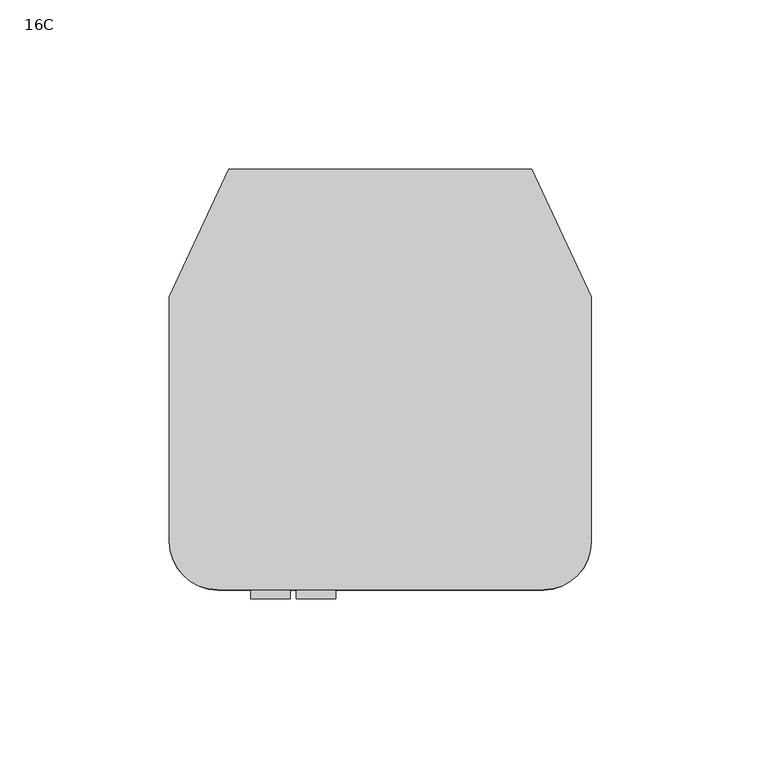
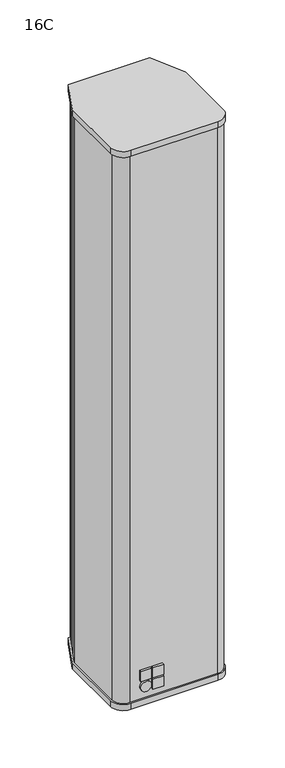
"""IFC4 building model written with IfcOpenShell, lengths in millimetres: proxy geometry, d&b xC-Series 16C Column : 16C."""

from ifc_helpers import new_model, si_unit, point, frame, frame_2d, origin, place, context, project, spatial, polyline, circle_curve, trimmed, segment, composite_curve, outline, extrude, source, transform, mapped, element, save
from ifc_brep_helpers import plane_surface, cylinder_surface, revolved_surface, advanced_brep


def proxy_16c_7316571e(model_context):
    return source(origin(), model_context, "Body", "SolidModel", [
        extrude(outline(polyline([(45.5615282, 50.1303765), (47.8272976, 51.1869221), (54.1607261, 37.604841), (51.8949566, 36.5482954), (45.5615282, 50.1303765)])), frame((0.0, 0.0, -318.0), z_axis=(0.0, 0.0, 1.0), x_axis=(1.0, 0.0, 0.0)), (0.0, 0.0, 1.0), 636.0),
        extrude(outline(polyline([(-45.5615282, 50.1303765), (-51.8949566, 36.5482954), (-54.1607261, 37.604841), (-47.8272976, 51.1869221), (-45.5615282, 50.1303765)])), frame((0.0, 0.0, -318.0), z_axis=(0.0, 0.0, 1.0), x_axis=(1.0, 0.0, 0.0)), (0.0, 0.0, 1.0), 636.0),
        advanced_brep(
        [(-32.05, 60.25, 318.0), (-43.601115, 60.25, 318.0), (-47.8272976, 51.1869221, 318.0), (-45.5615282, 50.1303765, 318.0), (-51.8949566, 36.5482954, 318.0), (-54.1607261, 37.604841, 318.0), (-60.5, 24.0102242, 318.0), (-60.5, -47.962132, 318.0), (-48.212132, -60.25, 318.0), (48.212132, -60.25, 318.0), (60.5, -47.962132, 318.0), (60.5, 24.0102242, 318.0), (54.1607261, 37.604841, 318.0), (51.8949566, 36.5482954, 318.0), (45.5615282, 50.1303765, 318.0), (47.8272976, 51.1869221, 318.0), (43.601115, 60.25, 318.0), (32.05, 60.25, 318.0), (32.05, 58.0499992, 318.0), (36.2500003, 58.0499992, 318.0), (36.2500003, 55.2955341, 318.0), (32.2044662, 51.25, 318.0), (23.7999989, 51.25, 318.0), (19.7499997, 55.2999992, 318.0), (19.7499997, 58.0499992, 318.0), (23.95, 58.0499992, 318.0), (23.95, 60.25, 318.0), (15.0, 60.25, 318.0), (15.0, 50.25, 318.0), (-15.0, 50.25, 318.0), (-15.0, 60.25, 318.0), (-23.95, 60.25, 318.0), (-23.95, 58.0499992, 318.0), (-19.7499997, 58.0499992, 318.0), (-19.7499997, 55.2999992, 318.0), (-23.7999989, 51.25, 318.0), (-32.2044662, 51.25, 318.0), (-36.2500003, 55.2955341, 318.0), (-36.2500003, 58.0499992, 318.0), (-32.05, 58.0499992, 318.0), (-32.05, 60.25, -318.0), (-32.05, 58.0499992, -318.0), (-36.2500003, 58.0499992, -318.0), (-36.2500003, 55.2955341, -318.0), (-32.2044662, 51.25, -318.0), (-23.7999989, 51.25, -318.0), (-19.7499997, 55.2999992, -318.0), (-19.7499997, 58.0499992, -318.0), (-23.95, 58.0499992, -318.0), (-23.95, 60.25, -318.0), (23.95, 60.25, -318.0), (23.95, 58.0499992, -318.0), (19.7499997, 58.0499992, -318.0), (19.7499997, 55.2999992, -318.0), (23.7999989, 51.25, -318.0), (32.2044662, 51.25, -318.0), (36.2500003, 55.2955341, -318.0), (36.2500003, 58.0499992, -318.0), (32.05, 58.0499992, -318.0), (32.05, 60.25, -318.0), (43.601115, 60.25, -318.0), (47.8272976, 51.1869221, -318.0), (45.5615282, 50.1303765, -318.0), (51.8949566, 36.5482954, -318.0), (54.1607261, 37.604841, -318.0), (60.5, 24.0102242, -318.0), (60.5, -47.962132, -318.0), (48.212132, -60.25, -318.0), (-48.212132, -60.25, -318.0), (-60.5, -47.962132, -318.0), (-60.5, 24.0102242, -318.0), (-54.1607261, 37.604841, -318.0), (-51.8949566, 36.5482954, -318.0), (-45.5615282, 50.1303765, -318.0), (-47.8272976, 51.1869221, -318.0), (-43.601115, 60.25, -318.0), (-15.0, 60.25, 286.5), (-12.5, 60.25, 284.0), (12.5, 60.25, 284.0), (15.0, 60.25, 286.5), (-3.375, 60.25, -88.5), (-3.375, 60.25, -190.0), (3.375, 60.25, -190.0), (3.375, 60.25, -88.5), (15.0, 50.25, 286.5), (12.5, 50.25, 284.0), (-12.5, 50.25, 284.0), (-15.0, 50.25, 286.5), (-3.375, 57.0, -190.0), (-3.375, 57.0, -88.5), (3.375, 57.0, -88.5), (3.375, 57.0, -190.0)],
        [
            (0, 1),
            (1, 2),
            (2, 3),
            (3, 4),
            (4, 5),
            (5, 6),
            (6, 7),
            (7, 8, circle_curve(frame((-48.212132, -47.962132, 318.0), z_axis=(0.0, 0.0, 1.0), x_axis=(-1.0, 0.0, 0.0)), 12.287868)),
            (8, 9),
            (9, 10, circle_curve(frame((48.212132, -47.962132, 318.0), z_axis=(0.0, 0.0, 1.0), x_axis=(-1.0, 0.0, 0.0)), 12.287868)),
            (10, 11),
            (11, 12),
            (12, 13),
            (13, 14),
            (14, 15),
            (15, 16),
            (16, 17),
            (17, 18),
            (18, 19),
            (19, 20),
            (20, 21),
            (21, 22),
            (22, 23),
            (23, 24),
            (24, 25),
            (25, 26),
            (26, 27),
            (27, 28),
            (28, 29),
            (29, 30),
            (30, 31),
            (31, 32),
            (32, 33),
            (33, 34),
            (34, 35),
            (35, 36),
            (36, 37),
            (37, 38),
            (38, 39),
            (39, 0),
            (40, 41),
            (41, 42),
            (42, 43),
            (43, 44),
            (44, 45),
            (45, 46),
            (46, 47),
            (47, 48),
            (48, 49),
            (49, 50),
            (50, 51),
            (51, 52),
            (52, 53),
            (53, 54),
            (54, 55),
            (55, 56),
            (56, 57),
            (57, 58),
            (58, 59),
            (59, 60),
            (60, 61),
            (61, 62),
            (62, 63),
            (63, 64),
            (64, 65),
            (65, 66),
            (66, 67, circle_curve(frame((48.212132, -47.962132, -318.0), z_axis=(0.0, 0.0, -1.0), x_axis=(-1.0, 0.0, 0.0)), 12.287868)),
            (67, 68),
            (68, 69, circle_curve(frame((-48.212132, -47.962132, -318.0), z_axis=(0.0, 0.0, -1.0), x_axis=(-1.0, 0.0, 0.0)), 12.287868)),
            (69, 70),
            (70, 71),
            (71, 72),
            (72, 73),
            (73, 74),
            (74, 75),
            (75, 40),
            (0, 40),
            (75, 1),
            (6, 70),
            (69, 7),
            (68, 8),
            (67, 9),
            (66, 10),
            (65, 11),
            (64, 12),
            (16, 60),
            (59, 17),
            (58, 18),
            (57, 19),
            (56, 20),
            (55, 21),
            (54, 22),
            (53, 23),
            (52, 24),
            (51, 25),
            (50, 26),
            (49, 31),
            (30, 76),
            (76, 77, circle_curve(frame((-12.5, 60.25, 286.5), z_axis=(0.0, -1.0, 0.0), x_axis=(-1.0, 0.0, 0.0)), 2.5)),
            (77, 78),
            (78, 79, circle_curve(frame((12.5, 60.25, 286.5), z_axis=(0.0, -1.0, 0.0), x_axis=(-1.0, 0.0, 0.0)), 2.5)),
            (79, 27),
            (80, 81),
            (81, 82, circle_curve(frame((0.0, 60.25, -190.0), z_axis=(0.0, -1.0, 0.0), x_axis=(-1.0, 0.0, 0.0)), 3.375)),
            (82, 83),
            (83, 80, circle_curve(frame((0.0, 60.25, -88.5), z_axis=(0.0, -1.0, 0.0), x_axis=(-1.0, 0.0, 0.0)), 3.375)),
            (48, 32),
            (47, 33),
            (46, 34),
            (45, 35),
            (44, 36),
            (43, 37),
            (42, 38),
            (41, 39),
            (84, 85, circle_curve(frame((12.5, 50.25, 286.5), z_axis=(0.0, 1.0, 0.0), x_axis=(-1.0, 0.0, 0.0)), 2.5)),
            (85, 86),
            (86, 87, circle_curve(frame((-12.5, 50.25, 286.5), z_axis=(0.0, 1.0, 0.0), x_axis=(-1.0, 0.0, 0.0)), 2.5)),
            (87, 29),
            (28, 84),
            (84, 79),
            (78, 85),
            (77, 86),
            (76, 87),
            (88, 89),
            (89, 90, circle_curve(frame((0.0, 57.0, -88.5), z_axis=(0.0, 1.0, 0.0), x_axis=(-1.0, 0.0, 0.0)), 3.375)),
            (90, 91),
            (91, 88, circle_curve(frame((0.0, 57.0, -190.0), z_axis=(0.0, 1.0, 0.0), x_axis=(-1.0, 0.0, 0.0)), 3.375)),
            (88, 81),
            (80, 89),
            (83, 90),
            (82, 91),
            (63, 13),
            (62, 14),
            (61, 15),
            (74, 2),
            (73, 3),
            (72, 4),
            (71, 5),
        ],
        [
            plane_surface(frame((-42.0084394, 60.25, 318.0), z_axis=(0.0, 0.0, 1.0), x_axis=(-1.0, 0.0, 0.0))),
            plane_surface(frame((-42.0084394, 60.25, -318.0), z_axis=(0.0, 0.0, -1.0), x_axis=(1.0, 0.0, 0.0))),
            plane_surface(frame((-32.05, 60.25, 318.0), z_axis=(0.0, 1.0, 0.0), x_axis=(0.0, 0.0, -1.0))),
            plane_surface(frame((-60.5, 24.0102242, 318.0), z_axis=(-1.0, 0.0, 0.0), x_axis=(0.0, 0.0, -1.0))),
            cylinder_surface(frame((-48.212132, -47.962132, -318.0), z_axis=(0.0, 0.0, 1.0), x_axis=(-1.0, 0.0, 0.0)), 12.287868),
            plane_surface(frame((-48.212132, -60.25, 318.0), z_axis=(0.0, -1.0, 0.0), x_axis=(0.0, 0.0, -1.0))),
            cylinder_surface(frame((48.212132, -47.962132, -318.0), z_axis=(0.0, 0.0, 1.0), x_axis=(-1.0, 0.0, 0.0)), 12.287868),
            plane_surface(frame((60.5, -47.962132, 318.0), z_axis=(1.0, 0.0, 0.0), x_axis=(0.0, 0.0, -1.0))),
            plane_surface(frame((60.5, 24.0102242, 318.0), z_axis=(0.9063077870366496, 0.4226182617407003, 0.0), x_axis=(0.0, 0.0, -1.0))),
            plane_surface(frame((43.601115, 60.25, 318.0), z_axis=(0.0, 1.0, 0.0), x_axis=(0.0, 0.0, -1.0))),
            plane_surface(frame((32.05, 60.25, 318.0), z_axis=(-1.0, 0.0, 0.0), x_axis=(0.0, 0.0, -1.0))),
            plane_surface(frame((32.05, 58.0499992, 318.0), z_axis=(0.0, -1.0, 0.0), x_axis=(0.0, 0.0, -1.0))),
            plane_surface(frame((36.2500003, 58.0499992, 318.0), z_axis=(-1.0, 0.0, 0.0), x_axis=(0.0, 0.0, -1.0))),
            plane_surface(frame((36.2500003, 55.2955341, 318.0), z_axis=(-0.7071067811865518, 0.7071067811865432, 0.0), x_axis=(0.0, 0.0, -1.0))),
            plane_surface(frame((32.2044662, 51.25, 318.0), z_axis=(0.0, 1.0, 0.0), x_axis=(0.0, 0.0, -1.0))),
            plane_surface(frame((23.7999989, 51.25, 318.0), z_axis=(0.7071067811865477, 0.7071067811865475, 0.0), x_axis=(0.0, 0.0, -1.0))),
            plane_surface(frame((19.7499997, 55.2999992, 318.0), z_axis=(1.0, 0.0, 0.0), x_axis=(0.0, 0.0, -1.0))),
            plane_surface(frame((19.7499997, 58.0499992, 318.0), z_axis=(0.0, -1.0, 0.0), x_axis=(0.0, 0.0, -1.0))),
            plane_surface(frame((23.95, 58.0499992, 318.0), z_axis=(1.0, 0.0, 0.0), x_axis=(0.0, 0.0, -1.0))),
            plane_surface(frame((23.95, 60.25, 318.0), z_axis=(0.0, 1.0, 0.0), x_axis=(0.0, 0.0, -1.0))),
            plane_surface(frame((-23.95, 60.25, 318.0), z_axis=(-1.0, 0.0, 0.0), x_axis=(0.0, 0.0, -1.0))),
            plane_surface(frame((-23.95, 58.0499992, 318.0), z_axis=(0.0, -1.0, 0.0), x_axis=(0.0, 0.0, -1.0))),
            plane_surface(frame((-19.7499997, 58.0499992, 318.0), z_axis=(-1.0, 0.0, 0.0), x_axis=(0.0, 0.0, -1.0))),
            plane_surface(frame((-19.7499997, 55.2999992, 318.0), z_axis=(-0.7071067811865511, 0.707106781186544, 0.0), x_axis=(0.0, 0.0, -1.0))),
            plane_surface(frame((-23.7999989, 51.25, 318.0), z_axis=(0.0, 1.0, 0.0), x_axis=(0.0, 0.0, -1.0))),
            plane_surface(frame((-32.2044662, 51.25, 318.0), z_axis=(0.7071067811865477, 0.7071067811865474, 0.0), x_axis=(0.0, 0.0, -1.0))),
            plane_surface(frame((-36.2500003, 55.2955341, 318.0), z_axis=(1.0, 0.0, 0.0), x_axis=(0.0, 0.0, -1.0))),
            plane_surface(frame((-36.2500003, 58.0499992, 318.0), z_axis=(0.0, -1.0, 0.0), x_axis=(0.0, 0.0, -1.0))),
            plane_surface(frame((-32.05, 58.0499992, 318.0), z_axis=(1.0, 0.0, 0.0), x_axis=(0.0, 0.0, -1.0))),
            plane_surface(frame((10.0, 50.25, 286.5), z_axis=(0.0, 1.0, 0.0), x_axis=(0.0, 0.0, -1.0))),
            revolved_surface(polyline([(10.0, 60.25, 286.5), (10.0, 50.25, 286.5)]), (12.5, 50.25, 286.5), (0.0, 1.0, 0.0)),
            plane_surface(frame((12.5, 62.0, 284.0), z_axis=(0.0, 0.0, 1.0), x_axis=(0.0, -1.0, 0.0))),
            revolved_surface(polyline([(-15.0, 60.25, 286.5), (-15.0, 50.25, 286.5)]), (-12.5, 50.25, 286.5), (0.0, 1.0, 0.0)),
            plane_surface(frame((-15.0, 62.0, 286.5), z_axis=(1.0, 0.0, 0.0), x_axis=(0.0, -1.0, 0.0))),
            plane_surface(frame((15.0, 62.0, 318.0), z_axis=(-1.0, 0.0, 0.0), x_axis=(0.0, -1.0, 0.0))),
            plane_surface(frame((-3.375, 57.0, -88.5), z_axis=(0.0, 1.0, 0.0), x_axis=(0.0, 0.0, -1.0))),
            plane_surface(frame((-3.375, 62.0, -190.0), z_axis=(1.0, 0.0, 0.0), x_axis=(0.0, -1.0, 0.0))),
            revolved_surface(polyline([(-3.375, 60.25, -88.5), (-3.375, 57.0, -88.5)]), (0.0, 57.0, -88.5), (0.0, 1.0, 0.0)),
            plane_surface(frame((3.375, 62.0, -88.5), z_axis=(-1.0, 0.0, 0.0), x_axis=(0.0, -1.0, 0.0))),
            revolved_surface(polyline([(-3.375, 60.25, -190.0), (-3.375, 57.0, -190.0)]), (0.0, 57.0, -190.0), (0.0, 1.0, 0.0)),
            plane_surface(frame((54.1607261, 37.604841, 318.0), z_axis=(-0.4226182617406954, 0.9063077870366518, 0.0), x_axis=(0.0, 0.0, -1.0))),
            plane_surface(frame((51.8949566, 36.5482954, 318.0), z_axis=(0.906307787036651, 0.4226182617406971, 0.0), x_axis=(0.0, 0.0, -1.0))),
            plane_surface(frame((45.5615282, 50.1303765, 318.0), z_axis=(0.42261826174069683, -0.9063077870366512, 0.0), x_axis=(0.0, 0.0, -1.0))),
            plane_surface(frame((47.8272976, 51.1869221, 318.0), z_axis=(0.9063077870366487, 0.4226182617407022, 0.0), x_axis=(0.0, 0.0, -1.0))),
            plane_surface(frame((-43.601115, 60.25, 318.0), z_axis=(-0.9063077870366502, 0.42261826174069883, 0.0), x_axis=(0.0, 0.0, -1.0))),
            plane_surface(frame((-47.8272976, 51.1869221, 318.0), z_axis=(-0.4226182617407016, -0.906307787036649, 0.0), x_axis=(0.0, 0.0, -1.0))),
            plane_surface(frame((-45.5615282, 50.1303765, 318.0), z_axis=(-0.9063077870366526, 0.4226182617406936, 0.0), x_axis=(0.0, 0.0, -1.0))),
            plane_surface(frame((-51.8949566, 36.5482954, 318.0), z_axis=(0.42261826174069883, 0.9063077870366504, 0.0), x_axis=(0.0, 0.0, -1.0))),
            plane_surface(frame((-54.1607261, 37.604841, 318.0), z_axis=(-0.9063077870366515, 0.4226182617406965, 0.0), x_axis=(0.0, 0.0, -1.0))),
        ],
        [
            (0, [[1, 2, 3, 4, 5, 6, 7, 8, 9, 10, 11, 12, 13, 14, 15, 16, 17, 18, 19, 20, 21, 22, 23, 24, 25, 26, 27, 28, 29, 30, 31, 32, 33, 34, 35, 36, 37, 38, 39, 40]]),
            (1, [[41, 42, 43, 44, 45, 46, 47, 48, 49, 50, 51, 52, 53, 54, 55, 56, 57, 58, 59, 60, 61, 62, 63, 64, 65, 66, 67, 68, 69, 70, 71, 72, 73, 74, 75, 76]]),
            (2, [[-1, 77, -76, 78]]),
            (3, [[-7, 79, -70, 80]]),
            (4, [[-8, -80, -69, 81]]),
            (5, [[-9, -81, -68, 82]]),
            (6, [[-10, -82, -67, 83]]),
            (7, [[-11, -83, -66, 84]]),
            (8, [[-12, -84, -65, 85]]),
            (9, [[-17, 86, -60, 87]]),
            (10, [[-18, -87, -59, 88]]),
            (11, [[-19, -88, -58, 89]]),
            (12, [[-20, -89, -57, 90]]),
            (13, [[-21, -90, -56, 91]]),
            (14, [[-22, -91, -55, 92]]),
            (15, [[-23, -92, -54, 93]]),
            (16, [[-24, -93, -53, 94]]),
            (17, [[-25, -94, -52, 95]]),
            (18, [[-26, -95, -51, 96]]),
            (19, [[-50, 97, -31, 98, 99, 100, 101, 102, -27, -96], [103, 104, 105, 106]]),
            (20, [[-32, -97, -49, 107]]),
            (21, [[-33, -107, -48, 108]]),
            (22, [[-34, -108, -47, 109]]),
            (23, [[-35, -109, -46, 110]]),
            (24, [[-36, -110, -45, 111]]),
            (25, [[-37, -111, -44, 112]]),
            (26, [[-38, -112, -43, 113]]),
            (27, [[-39, -113, -42, 114]]),
            (28, [[-40, -114, -41, -77]]),
            (29, [[115, 116, 117, 118, -29, 119]]),
            (30, [[-115, 120, -101, 121]]),
            (31, [[-116, -121, -100, 122]]),
            (32, [[-117, -122, -99, 123]]),
            (33, [[-118, -123, -98, -30]]),
            (34, [[-119, -28, -102, -120]]),
            (35, [[124, 125, 126, 127]]),
            (36, [[-124, 128, -103, 129]]),
            (37, [[-125, -129, -106, 130]]),
            (38, [[-126, -130, -105, 131]]),
            (39, [[-127, -131, -104, -128]]),
            (40, [[-13, -85, -64, 132]]),
            (41, [[-14, -132, -63, 133]]),
            (42, [[-15, -133, -62, 134]]),
            (43, [[-16, -134, -61, -86]]),
            (44, [[-2, -78, -75, 135]]),
            (45, [[-3, -135, -74, 136]]),
            (46, [[-4, -136, -73, 137]]),
            (47, [[-5, -137, -72, 138]]),
            (48, [[-6, -138, -71, -79]]),
        ],
    ),
        extrude(outline(polyline([(-38.212132, -62.0), (-26.5454654, -62.0), (-26.5454654, -64.5), (-38.212132, -64.5), (-38.212132, -62.0)])), frame((0.0, 0.0, -294.6666667), z_axis=(0.0, 0.0, 1.0), x_axis=(1.0, 0.0, 0.0)), (0.0, 0.0, 1.0), 11.6666667),
        extrude(outline(polyline([(-24.8787987, -62.0), (-13.212132, -62.0), (-13.212132, -64.5), (-24.8787987, -64.5), (-24.8787987, -62.0)])), frame((0.0, 0.0, -294.6666667), z_axis=(0.0, 0.0, 1.0), x_axis=(1.0, 0.0, 0.0)), (0.0, 0.0, 1.0), 11.6666667),
        extrude(outline(polyline([(-24.8787987, -62.0), (-13.212132, -62.0), (-13.212132, -64.5), (-24.8787987, -64.5), (-24.8787987, -62.0)])), frame((0.0, 0.0, -308.0), z_axis=(0.0, 0.0, 1.0), x_axis=(1.0, 0.0, 0.0)), (0.0, 0.0, 1.0), 11.6666667),
        extrude(outline(composite_curve([segment(trimmed(circle_curve(frame_2d((-302.1666667, -32.3787987)), 5.8333333), [point((-302.1666667, -26.5454654))], [point((-302.1666667, -38.212132))], False, "CARTESIAN"), True, "CONTINUOUS"), segment(trimmed(circle_curve(frame_2d((-302.1666667, -32.3787987)), 5.8333333), [point((-302.1666667, -38.212132))], [point((-302.1666667, -26.5454654))], False, "CARTESIAN"), True, "CONTINUOUS")], self_intersect=False)), frame((0.0, -64.5, 0.0), z_axis=(0.0, 1.0, 0.0), x_axis=(0.0, 0.0, 1.0)), (0.0, 0.0, 1.0), 2.5),
        extrude(outline(composite_curve([segment(polyline([(44.715988, 62.0), (62.25, 24.3981899), (62.25, -47.75)]), True, "CONTINUOUS"), segment(trimmed(circle_curve(frame_2d((48.0, -47.75)), 14.25), [point((62.25, -47.75))], [point((48.0, -62.0))], False, "CARTESIAN"), True, "CONTINUOUS"), segment(polyline([(48.0, -62.0), (-48.0, -62.0)]), True, "CONTINUOUS"), segment(trimmed(circle_curve(frame_2d((-48.0, -47.75)), 14.25), [point((-48.0, -62.0))], [point((-62.25, -47.75))], False, "CARTESIAN"), True, "CONTINUOUS"), segment(polyline([(-62.25, -47.75), (-62.25, 24.3981899), (-44.715988, 62.0), (44.715988, 62.0)]), True, "CONTINUOUS")], self_intersect=False)), frame((0.0, 0.0, -325.0), z_axis=(0.0, 0.0, 1.0), x_axis=(1.0, 0.0, 0.0)), (0.0, 0.0, 1.0), 7.0),
        extrude(outline(composite_curve([segment(polyline([(44.715988, 62.0), (62.25, 24.3981899), (62.25, -47.75)]), True, "CONTINUOUS"), segment(trimmed(circle_curve(frame_2d((48.0, -47.75)), 14.25), [point((62.25, -47.75))], [point((48.0, -62.0))], False, "CARTESIAN"), True, "CONTINUOUS"), segment(polyline([(48.0, -62.0), (-48.0, -62.0)]), True, "CONTINUOUS"), segment(trimmed(circle_curve(frame_2d((-48.0, -47.75)), 14.25), [point((-48.0, -62.0))], [point((-62.25, -47.75))], False, "CARTESIAN"), True, "CONTINUOUS"), segment(polyline([(-62.25, -47.75), (-62.25, 24.3981899), (-44.715988, 62.0), (44.715988, 62.0)]), True, "CONTINUOUS")], self_intersect=False)), frame((0.0, 0.0, 318.0), z_axis=(0.0, 0.0, 1.0), x_axis=(1.0, 0.0, 0.0)), (0.0, 0.0, 1.0), 7.0),
    ])


if __name__ == "__main__":
    model = new_model("IFC4")
    model_context = context("Model", 3, world=origin())
    ifc_project = project(units=[si_unit("LENGTHUNIT", "METRE", prefix="MILLI")], contexts=[model_context])
    site = spatial("IfcSite", under=ifc_project)
    building = spatial("IfcBuilding", under=site)
    placement = place(None, origin())
    proxy_16c_shape = proxy_16c_7316571e(model_context)
    element("IfcBuildingElementProxy", 1, Name="d&b xC-Series 16C Column : 16C", ObjectType="d&b xC-Series 16C Column : 16C", at=placement, inside=building, context=model_context, shape_type="MappedRepresentation", body=[
        mapped(proxy_16c_shape, transform((0.0, 0.0, 0.0), x_axis=(1.0, 0.0, 0.0), y_axis=(0.0, 1.0, 0.0), z_axis=(0.0, 0.0, 1.0))),
    ])
    save(model, "model.ifc")
